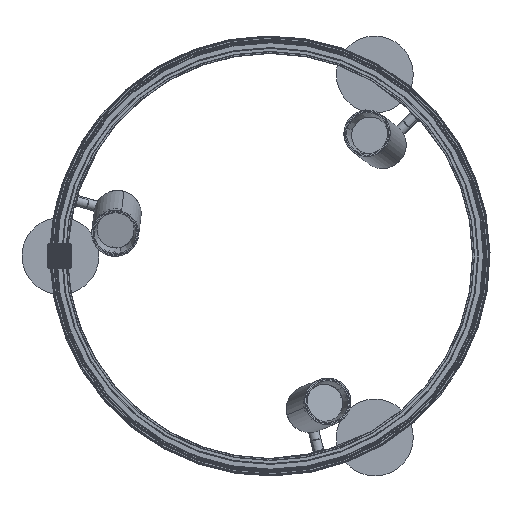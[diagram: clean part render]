
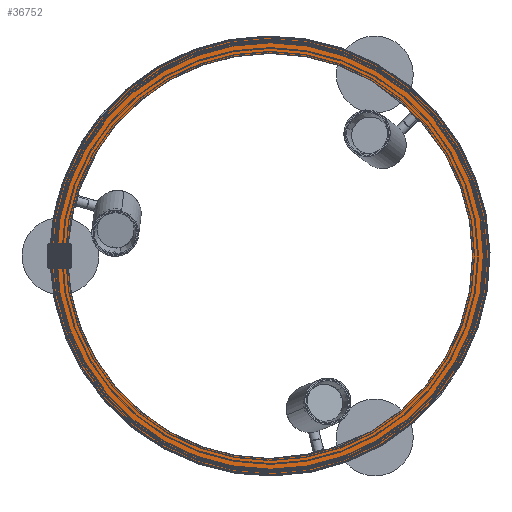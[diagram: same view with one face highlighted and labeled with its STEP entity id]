
A CAD part, left-side view. The second image highlights one B-rep face of the part: STEP entity #36752.
In plain terms, the highlighted planar face has unit normal (-1, 0, 0).
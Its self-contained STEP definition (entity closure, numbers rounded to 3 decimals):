
#2921 = AXIS2_PLACEMENT_3D ( 'NONE', #34277, #58159, #11387 ) ;
#7681 = FACE_OUTER_BOUND ( 'NONE', #70462, .T. ) ;
#11387 = DIRECTION ( 'NONE',  ( 0., 0., -1. ) ) ;
#14491 = FACE_BOUND ( 'NONE', #66324, .T. ) ;
#16268 = DIRECTION ( 'NONE',  ( 0., 0., -1. ) ) ;
#21809 = DIRECTION ( 'NONE',  ( -1., 0., 0. ) ) ;
#23404 = AXIS2_PLACEMENT_3D ( 'NONE', #32658, #94625, #57493 ) ;
#24378 = VERTEX_POINT ( 'NONE', #25086 ) ;
#25086 = CARTESIAN_POINT ( 'NONE',  ( -15., -237., -256.595 ) ) ;
#29327 = DIRECTION ( 'NONE',  ( 1., 0., 0. ) ) ;
#32658 = CARTESIAN_POINT ( 'NONE',  ( -15., -237., 0. ) ) ;
#34022 = CARTESIAN_POINT ( 'NONE',  ( -15., -237., 256.595 ) ) ;
#34277 = CARTESIAN_POINT ( 'NONE',  ( -15., -237., 0. ) ) ;
#35509 = ORIENTED_EDGE ( 'NONE', *, *, #40441, .F. ) ;
#36752 = ADVANCED_FACE ( 'NONE', ( #14491, #7681 ), #60296, .T. ) ;
#37579 = CARTESIAN_POINT ( 'NONE',  ( -15., -237., 0. ) ) ;
#38409 = ORIENTED_EDGE ( 'NONE', *, *, #55302, .T. ) ;
#40441 = EDGE_CURVE ( 'NONE', #24378, #49012, #90188, .T. ) ;
#44530 = AXIS2_PLACEMENT_3D ( 'NONE', #81831, #21809, #67657 ) ;
#45619 = CARTESIAN_POINT ( 'NONE',  ( -15., -237., -237.3 ) ) ;
#46781 = CIRCLE ( 'NONE', #23404, 237.3 ) ;
#49012 = VERTEX_POINT ( 'NONE', #34022 ) ;
#52460 = ORIENTED_EDGE ( 'NONE', *, *, #95310, .T. ) ;
#55089 = EDGE_CURVE ( 'NONE', #49012, #24378, #95234, .T. ) ;
#55302 = EDGE_CURVE ( 'NONE', #81224, #74034, #46781, .T. ) ;
#57493 = DIRECTION ( 'NONE',  ( 0., 0., -1. ) ) ;
#58159 = DIRECTION ( 'NONE',  ( 1., 0., 0. ) ) ;
#59053 = DIRECTION ( 'NONE',  ( 0., 0., -1. ) ) ;
#60296 = PLANE ( 'NONE',  #44530 ) ;
#62755 = ORIENTED_EDGE ( 'NONE', *, *, #55089, .F. ) ;
#66324 = EDGE_LOOP ( 'NONE', ( #38409, #52460 ) ) ;
#67482 = CARTESIAN_POINT ( 'NONE',  ( -15., -237., 0. ) ) ;
#67612 = AXIS2_PLACEMENT_3D ( 'NONE', #67482, #83095, #16268 ) ;
#67657 = DIRECTION ( 'NONE',  ( 0., 0., 1. ) ) ;
#70289 = AXIS2_PLACEMENT_3D ( 'NONE', #37579, #29327, #59053 ) ;
#70462 = EDGE_LOOP ( 'NONE', ( #35509, #62755 ) ) ;
#70751 = CIRCLE ( 'NONE', #67612, 237.3 ) ;
#74034 = VERTEX_POINT ( 'NONE', #91047 ) ;
#81224 = VERTEX_POINT ( 'NONE', #45619 ) ;
#81831 = CARTESIAN_POINT ( 'NONE',  ( -15., 19.595, 0. ) ) ;
#83095 = DIRECTION ( 'NONE',  ( 1., 0., 0. ) ) ;
#90188 = CIRCLE ( 'NONE', #2921, 256.595 ) ;
#91047 = CARTESIAN_POINT ( 'NONE',  ( -15., -237., 237.3 ) ) ;
#94625 = DIRECTION ( 'NONE',  ( 1., 0., 0. ) ) ;
#95234 = CIRCLE ( 'NONE', #70289, 256.595 ) ;
#95310 = EDGE_CURVE ( 'NONE', #74034, #81224, #70751, .T. ) ;
